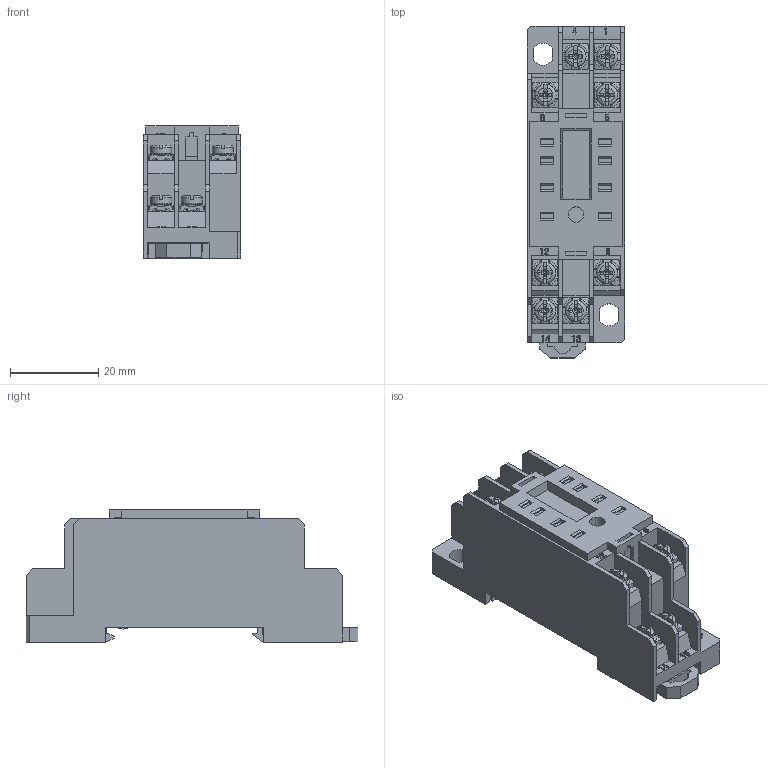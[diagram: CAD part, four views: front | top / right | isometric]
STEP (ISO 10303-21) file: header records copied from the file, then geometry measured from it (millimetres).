
FILE_DESCRIPTION (( 'STEP AP203' ), '1' );
FILE_NAME ('SYF08A 俋倛.STEP', '2023-01-13T01:35:06', ( '' ), ( '' ), 'SwSTEP 2.0', 'SolidWorks 2018', '' );
FILE_SCHEMA (( 'CONFIG_CONTROL_DESIGN' ));
Products named in the file (1): SYF08A 俋倛
Bounding box: 22 x 75.1 x 29.9 mm (x, y, z)
Volume: 31088.8 mm3; surface area: 13900.8 mm2
Topology: 1 solids, 1 shells, 2109 faces, 5650 edges, 3540 vertices
Faces by surface type: plane 962, bspline 489, cylinder 354, torus 144, cone 96, sphere 64
Entity records: 78066 total; most frequent: CARTESIAN_POINT 30062, ORIENTED_EDGE 11140, DIRECTION 8383, EDGE_CURVE 5570, VERTEX_POINT 3540, VECTOR 2845, LINE 2845, AXIS2_PLACEMENT_3D 2769
